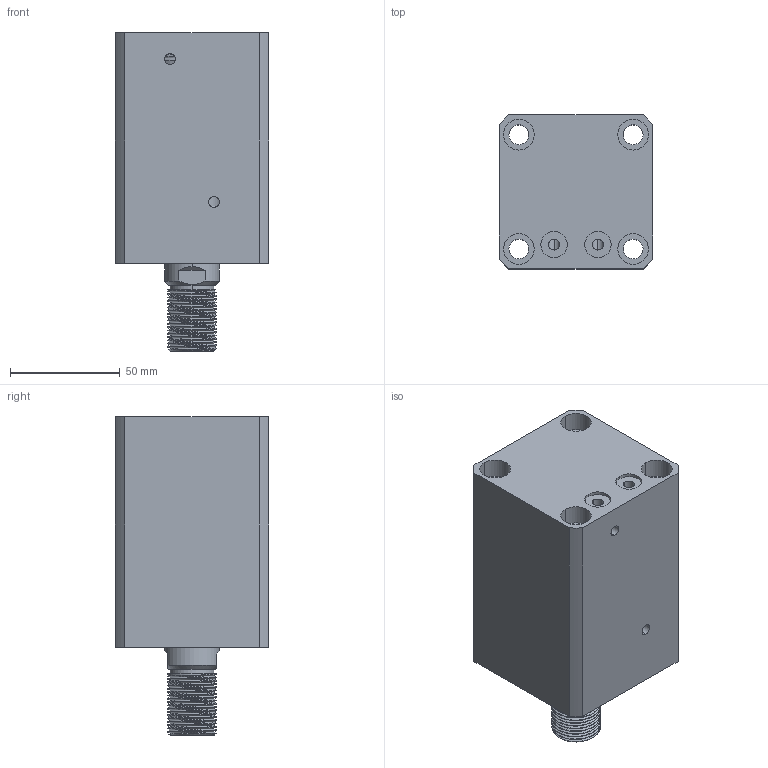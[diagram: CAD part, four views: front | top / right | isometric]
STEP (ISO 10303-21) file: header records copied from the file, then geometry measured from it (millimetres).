
FILE_DESCRIPTION (( 'STEP AP214' ), '1' );
FILE_NAME ('chtb-sdmb40x50w_asm.STEP', '2018-06-07T01:47:25', ( 'Windows' ), ( 'Microsoft' ), 'SwSTEP 2.0', 'SolidWorks 2015', '' );
FILE_SCHEMA (( 'AUTOMOTIVE_DESIGN' ));
Length unit declared in the file: millimetre
Products named in the file (4): CHTB-SDMB40X50NBT; CHTB-SD40X50WHSG; CHTB-SD40QG; chtb-sdmb40x50w_asm
Assembly tree (3 placements, depth 2):
  chtb-sdmb40x50w_asm
    CHTB-SD40QG
    CHTB-SD40X50WHSG
    CHTB-SDMB40X50NBT
Bounding box: 70 x 70 x 145 mm (x, y, z)
Volume: 448082.2 mm3; surface area: 91787.7 mm2
Topology: 3 solids, 4 shells, 201 faces, 539 edges, 359 vertices
Faces by surface type: cylinder 122, plane 38, bspline 16, torus 14, cone 11
Entity records: 13455 total; most frequent: CARTESIAN_POINT 8586, ORIENTED_EDGE 1066, DIRECTION 904, EDGE_CURVE 533, AXIS2_PLACEMENT_3D 374, VERTEX_POINT 359, EDGE_LOOP 238, ADVANCED_FACE 201
